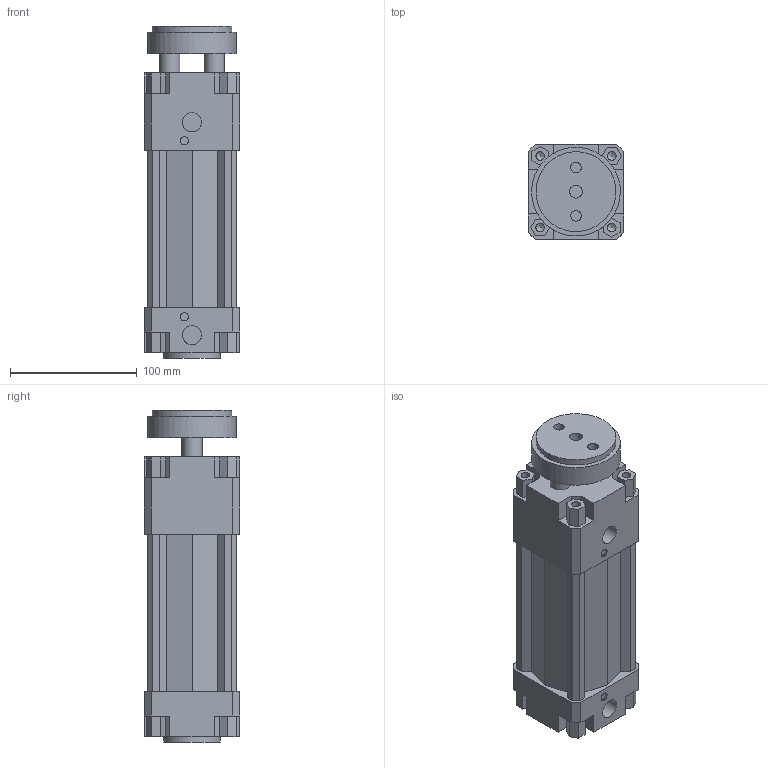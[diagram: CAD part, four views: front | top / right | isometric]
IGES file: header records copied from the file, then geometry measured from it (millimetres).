
Global section: file name: 134#_063_0075_01; native system: Autodesk Inventor 2014; preprocessor: unknown; author: A. Manieri; date: 20161006.165107; units: millimetre
Bounding box: 75 x 75 x 262 mm (x, y, z)
Volume: 928793.2 mm3; surface area: 169706.3 mm2
Topology: 2 solids, 2 shells, 180 faces, 491 edges, 335 vertices
Faces by surface type: bspline 180
